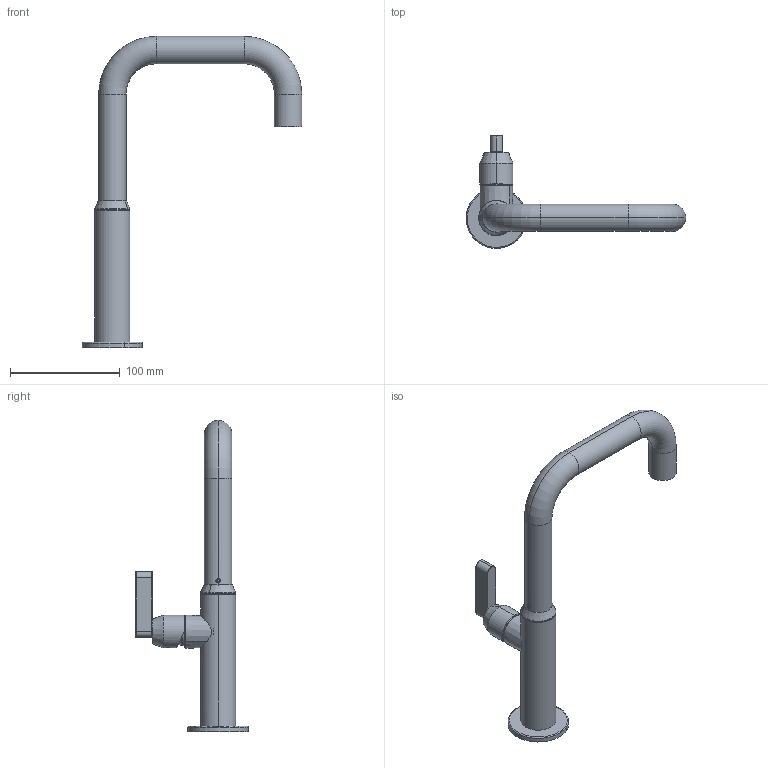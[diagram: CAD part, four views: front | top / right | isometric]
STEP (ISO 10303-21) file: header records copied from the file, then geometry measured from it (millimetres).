
FILE_DESCRIPTION (( 'STEP AP203' ), '1' );
FILE_NAME ('KOE5.STEP', '2019-06-07T09:24:07', ( '' ), ( '' ), 'SwSTEP 2.0', 'SolidWorks 2014', '' );
FILE_SCHEMA (( 'CONFIG_CONTROL_DESIGN' ));
Length unit declared in the file: millimetre
Products named in the file (23): GRANO M5x6; EU1590_0; EU2041_0; EU2040_0; TAPPHITO01; EU2047_0; AERA2151INC; GRANCO M4x4 ACCIAIO; CARTBAG016; KOE5; EU0120_1; EU1893_0; EU0824_ZA; VITETC6X8; AS769_00; EU0119_2; EU0370_3; EU0371_2; OR212ACS; AS779_00; EU2033_0; OR1554262ACS; SPININOX  ﾘ 1,5x6
Assembly tree (23 placements, depth 4):
  KOE5
    AS769_00
      EU0370_3
      AS779_00
        EU2047_0
        EU2033_0
        SPININOX  ﾘ 1,5x6
        VITETC6X8
      EU0371_2
      CARTBAG016
      EU0120_1
      EU0119_2
      TAPPHITO01
      GRANO M5x6
      EU2041_0
      OR212ACS
      OR1554262ACS  x2
      EU1590_0
    GRANCO M4x4 ACCIAIO
    EU0824_ZA
    EU1893_0
    EU2040_0
    AERA2151INC
Bounding box: 199.95 x 102.46 x 283.47 mm (x, y, z)
Volume: 153535.6 mm3; surface area: 119661.5 mm2
Topology: 20 solids, 31 shells, 1221 faces, 3344 edges, 2168 vertices
Faces by surface type: cylinder 481, plane 408, cone 178, bspline 86, torus 68
Entity records: 45934 total; most frequent: CARTESIAN_POINT 13880, ORIENTED_EDGE 6108, DIRECTION 6083, EDGE_CURVE 3284, AXIS2_PLACEMENT_3D 2352, VERTEX_POINT 2152, VECTOR 1379, LINE 1379
